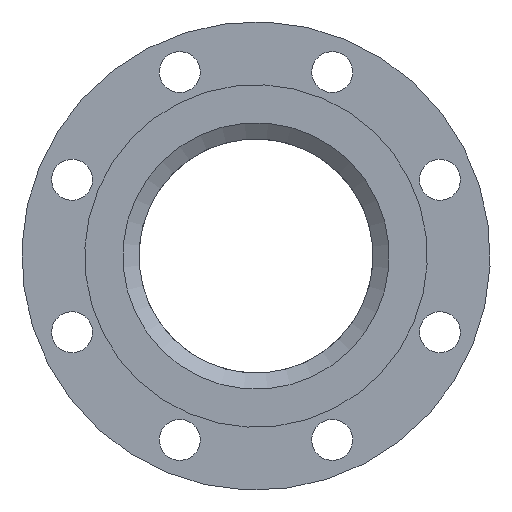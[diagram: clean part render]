
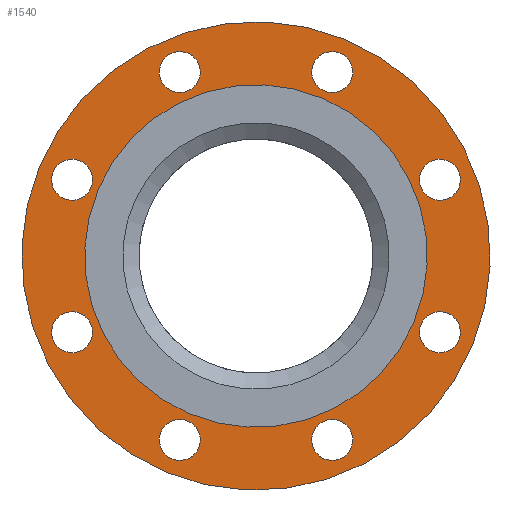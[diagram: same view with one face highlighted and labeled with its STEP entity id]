
A CAD part, front view. The second image highlights one B-rep face of the part: STEP entity #1540.
In plain terms, the highlighted planar face has unit normal (0, -1, 0).
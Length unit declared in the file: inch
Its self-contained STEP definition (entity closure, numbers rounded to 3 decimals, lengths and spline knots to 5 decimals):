
#94=FACE_BOUND('',#383,.T.);
#95=FACE_BOUND('',#384,.T.);
#96=FACE_BOUND('',#385,.T.);
#97=FACE_BOUND('',#386,.T.);
#98=FACE_BOUND('',#387,.T.);
#99=FACE_BOUND('',#388,.T.);
#100=FACE_BOUND('',#389,.T.);
#101=FACE_BOUND('',#390,.T.);
#102=FACE_BOUND('',#391,.T.);
#251=FACE_OUTER_BOUND('',#382,.T.);
#382=EDGE_LOOP('',(#1087));
#383=EDGE_LOOP('',(#1088));
#384=EDGE_LOOP('',(#1089));
#385=EDGE_LOOP('',(#1090));
#386=EDGE_LOOP('',(#1091));
#387=EDGE_LOOP('',(#1092));
#388=EDGE_LOOP('',(#1093));
#389=EDGE_LOOP('',(#1094));
#390=EDGE_LOOP('',(#1095));
#391=EDGE_LOOP('',(#1096));
#655=CIRCLE('',#1667,3.65625);
#660=CIRCLE('',#1676,5.);
#661=CIRCLE('',#1677,0.4375);
#662=CIRCLE('',#1678,0.4375);
#663=CIRCLE('',#1679,0.4375);
#664=CIRCLE('',#1680,0.4375);
#665=CIRCLE('',#1681,0.4375);
#666=CIRCLE('',#1682,0.4375);
#667=CIRCLE('',#1683,0.4375);
#668=CIRCLE('',#1684,0.4375);
#796=VERTEX_POINT('',#2471);
#801=VERTEX_POINT('',#2485);
#802=VERTEX_POINT('',#2487);
#803=VERTEX_POINT('',#2489);
#804=VERTEX_POINT('',#2491);
#805=VERTEX_POINT('',#2493);
#806=VERTEX_POINT('',#2495);
#807=VERTEX_POINT('',#2497);
#808=VERTEX_POINT('',#2499);
#809=VERTEX_POINT('',#2501);
#937=EDGE_CURVE('',#796,#796,#655,.T.);
#942=EDGE_CURVE('',#801,#801,#660,.T.);
#943=EDGE_CURVE('',#802,#802,#661,.T.);
#944=EDGE_CURVE('',#803,#803,#662,.T.);
#945=EDGE_CURVE('',#804,#804,#663,.T.);
#946=EDGE_CURVE('',#805,#805,#664,.T.);
#947=EDGE_CURVE('',#806,#806,#665,.T.);
#948=EDGE_CURVE('',#807,#807,#666,.T.);
#949=EDGE_CURVE('',#808,#808,#667,.T.);
#950=EDGE_CURVE('',#809,#809,#668,.T.);
#1087=ORIENTED_EDGE('',*,*,#942,.T.);
#1088=ORIENTED_EDGE('',*,*,#937,.T.);
#1089=ORIENTED_EDGE('',*,*,#943,.T.);
#1090=ORIENTED_EDGE('',*,*,#944,.T.);
#1091=ORIENTED_EDGE('',*,*,#945,.T.);
#1092=ORIENTED_EDGE('',*,*,#946,.T.);
#1093=ORIENTED_EDGE('',*,*,#947,.T.);
#1094=ORIENTED_EDGE('',*,*,#948,.T.);
#1095=ORIENTED_EDGE('',*,*,#949,.T.);
#1096=ORIENTED_EDGE('',*,*,#950,.T.);
#1359=PLANE('',#1675);
#1540=ADVANCED_FACE('',(#251,#94,#95,#96,#97,#98,#99,#100,#101,#102),#1359,
 .T.);
#1667=AXIS2_PLACEMENT_3D('',#2472,#1941,#1942);
#1675=AXIS2_PLACEMENT_3D('',#2484,#1957,#1958);
#1676=AXIS2_PLACEMENT_3D('',#2486,#1959,#1960);
#1677=AXIS2_PLACEMENT_3D('',#2488,#1961,#1962);
#1678=AXIS2_PLACEMENT_3D('',#2490,#1963,#1964);
#1679=AXIS2_PLACEMENT_3D('',#2492,#1965,#1966);
#1680=AXIS2_PLACEMENT_3D('',#2494,#1967,#1968);
#1681=AXIS2_PLACEMENT_3D('',#2496,#1969,#1970);
#1682=AXIS2_PLACEMENT_3D('',#2498,#1971,#1972);
#1683=AXIS2_PLACEMENT_3D('',#2500,#1973,#1974);
#1684=AXIS2_PLACEMENT_3D('',#2502,#1975,#1976);
#1941=DIRECTION('center_axis',(0.,1.,0.));
#1942=DIRECTION('ref_axis',(-0.225,0.,-0.974));
#1957=DIRECTION('center_axis',(0.,-1.,0.));
#1958=DIRECTION('ref_axis',(-0.924,0.,0.383));
#1959=DIRECTION('center_axis',(0.,-1.,0.));
#1960=DIRECTION('ref_axis',(-0.924,0.,0.383));
#1961=DIRECTION('center_axis',(0.,1.,0.));
#1962=DIRECTION('ref_axis',(-0.924,0.,0.383));
#1963=DIRECTION('center_axis',(0.,1.,0.));
#1964=DIRECTION('ref_axis',(-0.383,0.,0.924));
#1965=DIRECTION('center_axis',(0.,1.,0.));
#1966=DIRECTION('ref_axis',(0.383,0.,0.924));
#1967=DIRECTION('center_axis',(0.,1.,0.));
#1968=DIRECTION('ref_axis',(0.924,0.,0.383));
#1969=DIRECTION('center_axis',(0.,1.,0.));
#1970=DIRECTION('ref_axis',(0.924,0.,-0.383));
#1971=DIRECTION('center_axis',(0.,1.,0.));
#1972=DIRECTION('ref_axis',(0.383,0.,-0.924));
#1973=DIRECTION('center_axis',(0.,1.,0.));
#1974=DIRECTION('ref_axis',(-0.383,0.,-0.924));
#1975=DIRECTION('center_axis',(0.,1.,0.));
#1976=DIRECTION('ref_axis',(-0.924,0.,-0.383));
#2471=CARTESIAN_POINT('',(0.8209,0.5,3.5629));
#2472=CARTESIAN_POINT('Origin',(0.,0.5,
0.));
#2484=CARTESIAN_POINT('Origin',(0.,0.5,
0.));
#2485=CARTESIAN_POINT('',(4.6194,0.5,-1.91342));
#2486=CARTESIAN_POINT('Origin',(0.,0.5,
0.));
#2487=CARTESIAN_POINT('',(-2.0306,0.5,-3.75906));
#2488=CARTESIAN_POINT('Origin',(-1.6264,0.5,-3.92649));
#2489=CARTESIAN_POINT('',(-4.09391,0.5,-1.22221));
#2490=CARTESIAN_POINT('Origin',(-3.92649,0.5,-1.6264));
#2491=CARTESIAN_POINT('',(-3.75906,0.5,2.0306));
#2492=CARTESIAN_POINT('Origin',(-3.92649,0.5,1.6264));
#2493=CARTESIAN_POINT('',(-1.22221,0.5,4.09391));
#2494=CARTESIAN_POINT('Origin',(-1.6264,0.5,3.92649));
#2495=CARTESIAN_POINT('',(2.0306,0.5,3.75906));
#2496=CARTESIAN_POINT('Origin',(1.6264,0.5,3.92649));
#2497=CARTESIAN_POINT('',(4.09391,0.5,1.22221));
#2498=CARTESIAN_POINT('Origin',(3.92649,0.5,1.6264));
#2499=CARTESIAN_POINT('',(3.75906,0.5,-2.0306));
#2500=CARTESIAN_POINT('Origin',(3.92649,0.5,-1.6264));
#2501=CARTESIAN_POINT('',(1.22221,0.5,-4.09391));
#2502=CARTESIAN_POINT('Origin',(1.6264,0.5,-3.92649));
